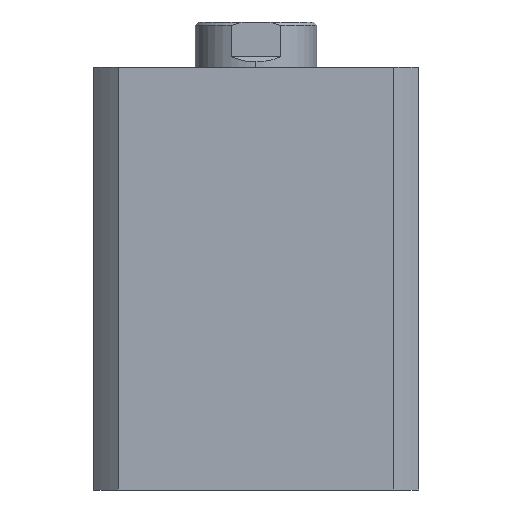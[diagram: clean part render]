
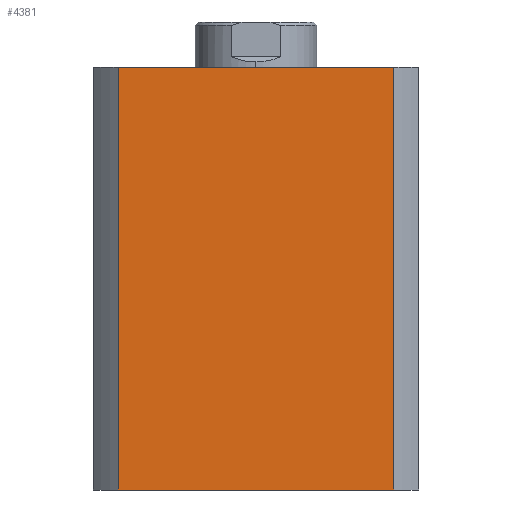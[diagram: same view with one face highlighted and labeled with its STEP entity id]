
A CAD part, left-side view. The second image highlights one B-rep face of the part: STEP entity #4381.
In plain terms, the highlighted planar face has unit normal (-1, 0, 0).
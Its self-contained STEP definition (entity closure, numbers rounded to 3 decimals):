
#249 = CARTESIAN_POINT ( 'NONE',  ( -47., 39.664, 122. ) ) ;
#250 = CARTESIAN_POINT ( 'NONE',  ( -47., -39.664, 122. ) ) ;
#269 = CARTESIAN_POINT ( 'NONE',  ( -47., 39.664, 0. ) ) ;
#270 = CARTESIAN_POINT ( 'NONE',  ( -47., -39.664, 0. ) ) ;
#1315 = VERTEX_POINT ( 'NONE', #249 ) ;
#1316 = VERTEX_POINT ( 'NONE', #250 ) ;
#1335 = VERTEX_POINT ( 'NONE', #269 ) ;
#1336 = VERTEX_POINT ( 'NONE', #270 ) ;
#1984 = DIRECTION ( 'NONE',  ( 0., -1., 0. ) ) ;
#1989 = CARTESIAN_POINT ( 'NONE',  ( -47., 0., 122. ) ) ;
#2164 = LINE ( 'NONE', #1989, #2166 ) ;
#2166 = VECTOR ( 'NONE', #1984, 1000. ) ;
#2288 = FACE_OUTER_BOUND ( 'NONE', #4932, .T. ) ;
#2583 = CARTESIAN_POINT ( 'NONE',  ( -47., 0., 122. ) ) ;
#2588 = PLANE ( 'NONE',  #2881 ) ;
#2591 = DIRECTION ( 'NONE',  ( 1., 0., 0. ) ) ;
#2592 = DIRECTION ( 'NONE',  ( 0., 0., -1. ) ) ;
#2770 = EDGE_CURVE ( 'NONE', #1315, #1316, #2164, .T. ) ;
#2881 = AXIS2_PLACEMENT_3D ( 'NONE', #2583, #2591, #2592 ) ;
#3299 = ORIENTED_EDGE ( 'NONE', *, *, #4589, .T. ) ;
#3314 = ORIENTED_EDGE ( 'NONE', *, *, #4590, .F. ) ;
#3338 = ORIENTED_EDGE ( 'NONE', *, *, #2770, .F. ) ;
#3339 = ORIENTED_EDGE ( 'NONE', *, *, #4588, .T. ) ;
#3755 = LINE ( 'NONE', #4191, #3761 ) ;
#3757 = LINE ( 'NONE', #4189, #3759 ) ;
#3759 = VECTOR ( 'NONE', #4182, 1000. ) ;
#3760 = LINE ( 'NONE', #4197, #3763 ) ;
#3761 = VECTOR ( 'NONE', #4196, 1000. ) ;
#3763 = VECTOR ( 'NONE', #4199, 1000. ) ;
#4182 = DIRECTION ( 'NONE',  ( 0., 0., -1. ) ) ;
#4189 = CARTESIAN_POINT ( 'NONE',  ( -47., 39.664, 122. ) ) ;
#4191 = CARTESIAN_POINT ( 'NONE',  ( -47., 0., 0. ) ) ;
#4196 = DIRECTION ( 'NONE',  ( 0., -1., 0. ) ) ;
#4197 = CARTESIAN_POINT ( 'NONE',  ( -47., -39.664, 122. ) ) ;
#4199 = DIRECTION ( 'NONE',  ( 0., 0., -1. ) ) ;
#4381 = ADVANCED_FACE ( 'NONE', ( #2288 ), #2588, .F. ) ;
#4588 = EDGE_CURVE ( 'NONE', #1315, #1335, #3757, .T. ) ;
#4589 = EDGE_CURVE ( 'NONE', #1335, #1336, #3755, .T. ) ;
#4590 = EDGE_CURVE ( 'NONE', #1316, #1336, #3760, .T. ) ;
#4932 = EDGE_LOOP ( 'NONE', ( #3299, #3314, #3338, #3339 ) ) ;
